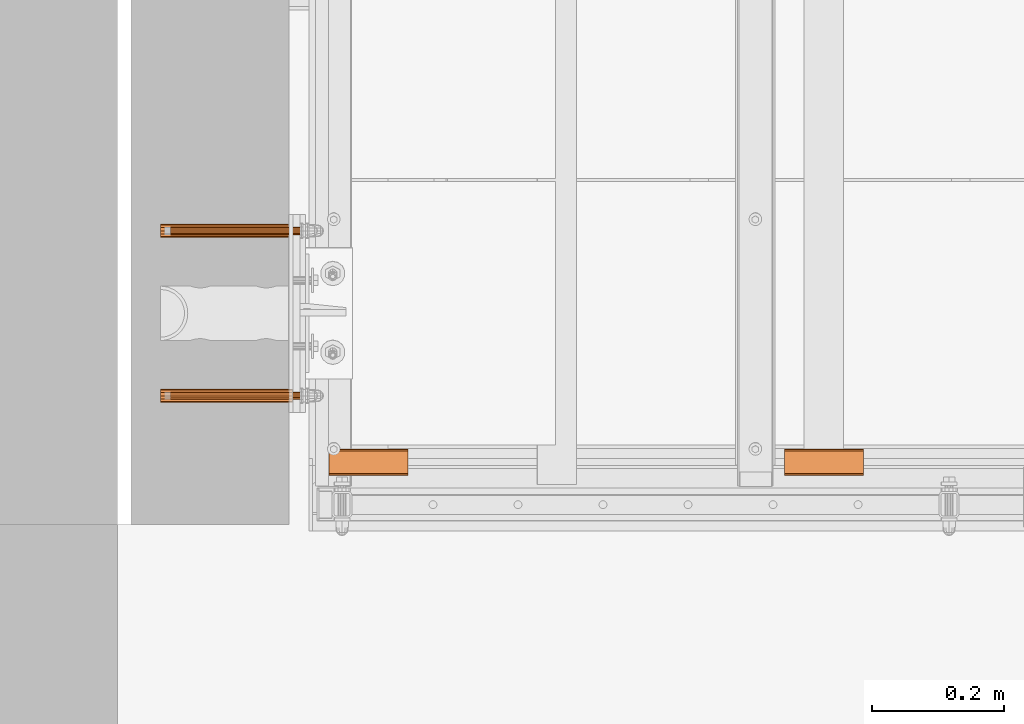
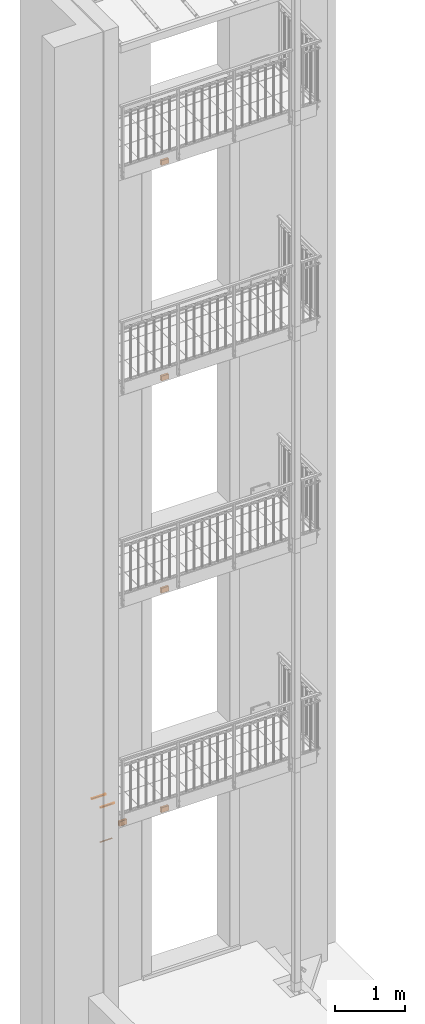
# One storey, part 81 of 162: 10 proxies.
"""IFC2X3 building model written with IfcOpenShell, lengths in millimetres."""

from ifc_helpers import new_model, entity, si_unit, converted_unit, origin_with_axes, place, context, project, spatial, faceted_brep, material, element, save


model = new_model("IFC2X3")

# Units and contexts
model_context = context("Model", 3, precision=1e-09, world=origin_with_axes())
ifc_project = project(units=[si_unit("LENGTHUNIT", "METRE", prefix="MILLI"), si_unit("AREAUNIT", "SQUARE_METRE"), si_unit("VOLUMEUNIT", "CUBIC_METRE"), converted_unit("PLANEANGLEUNIT", "DEGREE", entity("IfcPlaneAngleMeasure", 0.01745329), si_unit("PLANEANGLEUNIT", "RADIAN"), dimensions=[0, 0, 0, 0, 0, 0, 0])], contexts=[model_context])

# Site, building, storey
site_placement = place(None, origin_with_axes())
site = spatial("IfcSite", under=ifc_project, at=site_placement, Name="Hermannstra?e 1a, 60318 Frankfurt", CompositionType="ELEMENT")
building_placement = place(site_placement, origin_with_axes())
building = spatial("IfcBuilding", under=site, at=building_placement, Name="Struktur 1", CompositionType="ELEMENT")
storey_placement = place(building_placement, origin_with_axes())
storey = spatial("IfcBuildingStorey", under=building, at=storey_placement, Name="Default Storey", CompositionType="ELEMENT", Elevation=0.0)

# Proxies
ifc_material_1 = material(Name="Alu")
proxy_1_placement = place(None, origin_with_axes())
element("IfcBuildingElementProxy", 1, at=proxy_1_placement, inside=storey, material=ifc_material_1, ObjectType="-", context=model_context, shape_type="Brep", body=[
    faceted_brep([(3393.55936482, 1596.609373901, 7555.803847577), (3393.55936482, 1598.805526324, 7558.0), (3393.55936482, 1599.609373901, 7561.0), (3393.55936482, 1599.609373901, 7639.0), (3393.55936482, 1598.805526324, 7642.0), (3393.55936482, 1596.609373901, 7644.196152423), (3393.55936482, 1593.609373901, 7645.0), (3393.55936482, 1565.609373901, 7645.0), (3393.55936482, 1562.609373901, 7644.196152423), (3393.55936482, 1560.413221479, 7642.0), (3393.55936482, 1559.609373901, 7639.0), (3393.55936482, 1559.609373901, 7561.0), (3393.55936482, 1560.413221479, 7558.0), (3393.55936482, 1562.609373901, 7555.803847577), (3393.55936482, 1565.609373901, 7555.0), (3393.55936482, 1593.609373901, 7555.0), (3393.55936482, 1596.609373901, 7561.0), (3393.55936482, 1596.207450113, 7559.5), (3393.55936482, 1595.109373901, 7558.401923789), (3393.55936482, 1593.609373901, 7558.0), (3393.55936482, 1565.609373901, 7558.0), (3393.55936482, 1564.109373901, 7558.401923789), (3393.55936482, 1563.01129769, 7559.5), (3393.55936482, 1562.609373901, 7561.0), (3393.55936482, 1562.609373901, 7639.0), (3393.55936482, 1563.01129769, 7640.5), (3393.55936482, 1564.109373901, 7641.598076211), (3393.55936482, 1565.609373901, 7642.0), (3393.55936482, 1593.609373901, 7642.0), (3393.55936482, 1595.109373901, 7641.598076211), (3393.55936482, 1596.207450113, 7640.5), (3393.55936482, 1596.609373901, 7639.0), (3273.55936482, 1596.609373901, 7561.0), (3273.55936482, 1596.207450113, 7559.5), (3273.55936482, 1599.609373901, 7561.0), (3273.55936482, 1598.805526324, 7558.0), (3273.55936482, 1598.805526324, 7642.0), (3273.55936482, 1599.609373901, 7639.0), (3273.55936482, 1596.609373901, 7555.803847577), (3273.55936482, 1593.609373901, 7555.0), (3273.55936482, 1565.609373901, 7555.0), (3273.55936482, 1562.609373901, 7555.803847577), (3273.55936482, 1560.413221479, 7558.0), (3273.55936482, 1559.609373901, 7561.0), (3273.55936482, 1559.609373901, 7639.0), (3273.55936482, 1560.413221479, 7642.0), (3273.55936482, 1562.609373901, 7644.196152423), (3273.55936482, 1565.609373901, 7645.0), (3273.55936482, 1593.609373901, 7645.0), (3273.55936482, 1596.609373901, 7644.196152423), (3273.55936482, 1596.609373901, 7639.0), (3273.55936482, 1596.207450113, 7640.5), (3273.55936482, 1595.109373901, 7641.598076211), (3273.55936482, 1593.609373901, 7642.0), (3273.55936482, 1565.609373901, 7642.0), (3273.55936482, 1564.109373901, 7641.598076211), (3273.55936482, 1563.01129769, 7640.5), (3273.55936482, 1562.609373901, 7639.0), (3273.55936482, 1562.609373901, 7561.0), (3273.55936482, 1563.01129769, 7559.5), (3273.55936482, 1564.109373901, 7558.401923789), (3273.55936482, 1565.609373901, 7558.0), (3273.55936482, 1593.609373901, 7558.0), (3273.55936482, 1595.109373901, 7558.401923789)], [[[0, 1, 2, 3, 4, 5, 6, 7, 8, 9, 10, 11, 12, 13, 14, 15], [16, 17, 18, 19, 20, 21, 22, 23, 24, 25, 26, 27, 28, 29, 30, 31]], [[16, 32, 33, 17]], [[34, 2, 1, 35]], [[36, 37, 34, 35, 38, 39, 40, 41, 42, 43, 44, 45, 46, 47, 48, 49], [50, 51, 52, 53, 54, 55, 56, 57, 58, 59, 60, 61, 62, 63, 33, 32]], [[16, 31, 50, 32]], [[34, 37, 3, 2]], [[3, 37, 36, 4]], [[17, 33, 63, 18]], [[35, 1, 0, 38]], [[50, 31, 30, 51]], [[4, 36, 49, 5]], [[18, 63, 62, 19]], [[38, 0, 15, 39]], [[51, 30, 29, 52]], [[5, 49, 48, 6]], [[62, 61, 20, 19]], [[15, 14, 40, 39]], [[52, 29, 28, 53]], [[48, 47, 7, 6]], [[28, 27, 54, 53]], [[20, 61, 60, 21]], [[40, 14, 13, 41]], [[7, 47, 46, 8]], [[54, 27, 26, 55]], [[21, 60, 59, 22]], [[41, 13, 12, 42]], [[11, 43, 42, 12]], [[8, 46, 45, 9]], [[55, 26, 25, 56]], [[22, 59, 58, 23]], [[11, 10, 44, 43]], [[24, 57, 56, 25]], [[24, 23, 58, 57]], [[9, 45, 44, 10]]]),
])
proxy_2_placement = place(None, origin_with_axes())
element("IfcBuildingElementProxy", 2, at=proxy_2_placement, inside=storey, material=ifc_material_1, ObjectType="-", context=model_context, shape_type="Brep", body=[
    faceted_brep([(3393.55936482, 1596.609373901, 11255.802847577), (3393.55936482, 1598.805526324, 11257.999), (3393.55936482, 1599.609373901, 11260.999), (3393.55936482, 1599.609373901, 11338.999), (3393.55936482, 1598.805526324, 11341.999), (3393.55936482, 1596.609373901, 11344.195152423), (3393.55936482, 1593.609373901, 11344.999), (3393.55936482, 1565.609373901, 11344.999), (3393.55936482, 1562.609373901, 11344.195152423), (3393.55936482, 1560.413221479, 11341.999), (3393.55936482, 1559.609373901, 11338.999), (3393.55936482, 1559.609373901, 11260.999), (3393.55936482, 1560.413221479, 11257.999), (3393.55936482, 1562.609373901, 11255.802847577), (3393.55936482, 1565.609373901, 11254.999), (3393.55936482, 1593.609373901, 11254.999), (3393.55936482, 1596.609373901, 11260.999), (3393.55936482, 1596.207450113, 11259.499), (3393.55936482, 1595.109373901, 11258.400923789), (3393.55936482, 1593.609373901, 11257.999), (3393.55936482, 1565.609373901, 11257.999), (3393.55936482, 1564.109373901, 11258.400923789), (3393.55936482, 1563.01129769, 11259.499), (3393.55936482, 1562.609373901, 11260.999), (3393.55936482, 1562.609373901, 11338.999), (3393.55936482, 1563.01129769, 11340.499), (3393.55936482, 1564.109373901, 11341.597076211), (3393.55936482, 1565.609373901, 11341.999), (3393.55936482, 1593.609373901, 11341.999), (3393.55936482, 1595.109373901, 11341.597076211), (3393.55936482, 1596.207450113, 11340.499), (3393.55936482, 1596.609373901, 11338.999), (3273.55936482, 1596.609373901, 11260.999), (3273.55936482, 1596.207450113, 11259.499), (3273.55936482, 1599.609373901, 11260.999), (3273.55936482, 1598.805526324, 11257.999), (3273.55936482, 1598.805526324, 11341.999), (3273.55936482, 1599.609373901, 11338.999), (3273.55936482, 1596.609373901, 11255.802847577), (3273.55936482, 1593.609373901, 11254.999), (3273.55936482, 1565.609373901, 11254.999), (3273.55936482, 1562.609373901, 11255.802847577), (3273.55936482, 1560.413221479, 11257.999), (3273.55936482, 1559.609373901, 11260.999), (3273.55936482, 1559.609373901, 11338.999), (3273.55936482, 1560.413221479, 11341.999), (3273.55936482, 1562.609373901, 11344.195152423), (3273.55936482, 1565.609373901, 11344.999), (3273.55936482, 1593.609373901, 11344.999), (3273.55936482, 1596.609373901, 11344.195152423), (3273.55936482, 1596.609373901, 11338.999), (3273.55936482, 1596.207450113, 11340.499), (3273.55936482, 1595.109373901, 11341.597076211), (3273.55936482, 1593.609373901, 11341.999), (3273.55936482, 1565.609373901, 11341.999), (3273.55936482, 1564.109373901, 11341.597076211), (3273.55936482, 1563.01129769, 11340.499), (3273.55936482, 1562.609373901, 11338.999), (3273.55936482, 1562.609373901, 11260.999), (3273.55936482, 1563.01129769, 11259.499), (3273.55936482, 1564.109373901, 11258.400923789), (3273.55936482, 1565.609373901, 11257.999), (3273.55936482, 1593.609373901, 11257.999), (3273.55936482, 1595.109373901, 11258.400923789)], [[[0, 1, 2, 3, 4, 5, 6, 7, 8, 9, 10, 11, 12, 13, 14, 15], [16, 17, 18, 19, 20, 21, 22, 23, 24, 25, 26, 27, 28, 29, 30, 31]], [[16, 32, 33, 17]], [[34, 2, 1, 35]], [[36, 37, 34, 35, 38, 39, 40, 41, 42, 43, 44, 45, 46, 47, 48, 49], [50, 51, 52, 53, 54, 55, 56, 57, 58, 59, 60, 61, 62, 63, 33, 32]], [[16, 31, 50, 32]], [[34, 37, 3, 2]], [[3, 37, 36, 4]], [[17, 33, 63, 18]], [[35, 1, 0, 38]], [[50, 31, 30, 51]], [[4, 36, 49, 5]], [[18, 63, 62, 19]], [[38, 0, 15, 39]], [[51, 30, 29, 52]], [[5, 49, 48, 6]], [[62, 61, 20, 19]], [[15, 14, 40, 39]], [[52, 29, 28, 53]], [[48, 47, 7, 6]], [[28, 27, 54, 53]], [[20, 61, 60, 21]], [[40, 14, 13, 41]], [[7, 47, 46, 8]], [[54, 27, 26, 55]], [[21, 60, 59, 22]], [[41, 13, 12, 42]], [[11, 43, 42, 12]], [[8, 46, 45, 9]], [[55, 26, 25, 56]], [[22, 59, 58, 23]], [[11, 10, 44, 43]], [[24, 57, 56, 25]], [[24, 23, 58, 57]], [[9, 45, 44, 10]]]),
])
proxy_3_placement = place(None, origin_with_axes())
element("IfcBuildingElementProxy", 3, at=proxy_3_placement, inside=storey, material=ifc_material_1, ObjectType="-", context=model_context, shape_type="Brep", body=[
    faceted_brep([(3393.55936482, 1596.609373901, 15012.802847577), (3393.55936482, 1598.805526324, 15014.999), (3393.55936482, 1599.609373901, 15017.999), (3393.55936482, 1599.609373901, 15095.999), (3393.55936482, 1598.805526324, 15098.999), (3393.55936482, 1596.609373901, 15101.195152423), (3393.55936482, 1593.609373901, 15101.999), (3393.55936482, 1565.609373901, 15101.999), (3393.55936482, 1562.609373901, 15101.195152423), (3393.55936482, 1560.413221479, 15098.999), (3393.55936482, 1559.609373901, 15095.999), (3393.55936482, 1559.609373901, 15017.999), (3393.55936482, 1560.413221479, 15014.999), (3393.55936482, 1562.609373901, 15012.802847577), (3393.55936482, 1565.609373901, 15011.999), (3393.55936482, 1593.609373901, 15011.999), (3393.55936482, 1596.609373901, 15017.999), (3393.55936482, 1596.207450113, 15016.499), (3393.55936482, 1595.109373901, 15015.400923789), (3393.55936482, 1593.609373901, 15014.999), (3393.55936482, 1565.609373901, 15014.999), (3393.55936482, 1564.109373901, 15015.400923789), (3393.55936482, 1563.01129769, 15016.499), (3393.55936482, 1562.609373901, 15017.999), (3393.55936482, 1562.609373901, 15095.999), (3393.55936482, 1563.01129769, 15097.499), (3393.55936482, 1564.109373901, 15098.597076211), (3393.55936482, 1565.609373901, 15098.999), (3393.55936482, 1593.609373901, 15098.999), (3393.55936482, 1595.109373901, 15098.597076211), (3393.55936482, 1596.207450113, 15097.499), (3393.55936482, 1596.609373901, 15095.999), (3273.55936482, 1596.609373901, 15017.999), (3273.55936482, 1596.207450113, 15016.499), (3273.55936482, 1599.609373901, 15017.999), (3273.55936482, 1598.805526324, 15014.999), (3273.55936482, 1598.805526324, 15098.999), (3273.55936482, 1599.609373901, 15095.999), (3273.55936482, 1596.609373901, 15012.802847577), (3273.55936482, 1593.609373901, 15011.999), (3273.55936482, 1565.609373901, 15011.999), (3273.55936482, 1562.609373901, 15012.802847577), (3273.55936482, 1560.413221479, 15014.999), (3273.55936482, 1559.609373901, 15017.999), (3273.55936482, 1559.609373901, 15095.999), (3273.55936482, 1560.413221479, 15098.999), (3273.55936482, 1562.609373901, 15101.195152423), (3273.55936482, 1565.609373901, 15101.999), (3273.55936482, 1593.609373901, 15101.999), (3273.55936482, 1596.609373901, 15101.195152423), (3273.55936482, 1596.609373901, 15095.999), (3273.55936482, 1596.207450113, 15097.499), (3273.55936482, 1595.109373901, 15098.597076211), (3273.55936482, 1593.609373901, 15098.999), (3273.55936482, 1565.609373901, 15098.999), (3273.55936482, 1564.109373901, 15098.597076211), (3273.55936482, 1563.01129769, 15097.499), (3273.55936482, 1562.609373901, 15095.999), (3273.55936482, 1562.609373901, 15017.999), (3273.55936482, 1563.01129769, 15016.499), (3273.55936482, 1564.109373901, 15015.400923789), (3273.55936482, 1565.609373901, 15014.999), (3273.55936482, 1593.609373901, 15014.999), (3273.55936482, 1595.109373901, 15015.400923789)], [[[0, 1, 2, 3, 4, 5, 6, 7, 8, 9, 10, 11, 12, 13, 14, 15], [16, 17, 18, 19, 20, 21, 22, 23, 24, 25, 26, 27, 28, 29, 30, 31]], [[16, 32, 33, 17]], [[34, 2, 1, 35]], [[36, 37, 34, 35, 38, 39, 40, 41, 42, 43, 44, 45, 46, 47, 48, 49], [50, 51, 52, 53, 54, 55, 56, 57, 58, 59, 60, 61, 62, 63, 33, 32]], [[16, 31, 50, 32]], [[34, 37, 3, 2]], [[3, 37, 36, 4]], [[17, 33, 63, 18]], [[35, 1, 0, 38]], [[50, 31, 30, 51]], [[4, 36, 49, 5]], [[18, 63, 62, 19]], [[38, 0, 15, 39]], [[51, 30, 29, 52]], [[5, 49, 48, 6]], [[62, 61, 20, 19]], [[15, 14, 40, 39]], [[52, 29, 28, 53]], [[48, 47, 7, 6]], [[28, 27, 54, 53]], [[20, 61, 60, 21]], [[40, 14, 13, 41]], [[7, 47, 46, 8]], [[54, 27, 26, 55]], [[21, 60, 59, 22]], [[41, 13, 12, 42]], [[11, 43, 42, 12]], [[8, 46, 45, 9]], [[55, 26, 25, 56]], [[22, 59, 58, 23]], [[11, 10, 44, 43]], [[24, 57, 56, 25]], [[24, 23, 58, 57]], [[9, 45, 44, 10]]]),
])
ifc_material_2 = material(Name="Kunststoff")
proxy_4_placement = place(None, origin_with_axes())
element("IfcBuildingElementProxy", 4, at=proxy_4_placement, inside=storey, material=ifc_material_2, ObjectType="-", context=model_context, shape_type="Brep", body=[
    faceted_brep([(2328.310071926, 1675.610081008, 3471.339745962), (2328.310071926, 1671.94982697, 3475.0), (2328.310071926, 1670.610081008, 3480.0), (2328.310071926, 1671.94982697, 3485.0), (2328.310071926, 1675.610081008, 3488.660254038), (2328.310071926, 1680.610081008, 3490.0), (2328.310071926, 1685.610081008, 3488.660254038), (2328.310071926, 1689.270335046, 3485.0), (2328.310071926, 1690.610081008, 3480.0), (2328.310071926, 1689.270335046, 3475.0), (2328.310071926, 1685.610081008, 3471.339745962), (2328.310071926, 1680.610081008, 3470.0), (2528.310071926, 1680.610081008, 3490.0), (2528.310071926, 1675.610081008, 3488.660254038), (2528.310071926, 1685.610081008, 3488.660254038), (2528.310071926, 1689.270335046, 3485.0), (2528.310071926, 1689.270335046, 3475.0), (2528.310071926, 1685.610081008, 3471.339745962), (2528.310071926, 1690.610081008, 3480.0), (2528.310071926, 1680.610081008, 3470.0), (2528.310071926, 1671.94982697, 3485.0), (2528.310071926, 1670.610081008, 3480.0), (2528.310071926, 1671.94982697, 3475.0), (2528.310071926, 1675.610081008, 3471.339745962), (2528.310071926, 1684.860081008, 3472.638784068), (2330.310071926, 1684.860081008, 3472.638784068), (2330.310071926, 1680.610081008, 3471.5), (2528.310071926, 1680.610081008, 3471.5), (2528.310071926, 1687.97129694, 3475.75), (2330.310071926, 1687.97129694, 3475.75), (2330.310071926, 1680.610081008, 3488.5), (2528.310071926, 1680.610081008, 3488.5), (2528.310071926, 1676.360081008, 3487.361215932), (2330.310071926, 1676.360081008, 3487.361215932), (2330.310071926, 1684.860081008, 3487.361215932), (2528.310071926, 1684.860081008, 3487.361215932), (2330.310071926, 1673.248865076, 3484.25), (2330.310071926, 1672.110081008, 3480.0), (2330.310071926, 1673.248865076, 3475.75), (2330.310071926, 1676.360081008, 3472.638784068), (2330.310071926, 1689.110081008, 3480.0), (2330.310071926, 1687.97129694, 3484.25), (2528.310071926, 1676.360081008, 3472.638784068), (2528.310071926, 1687.97129694, 3484.25), (2528.310071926, 1689.110081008, 3480.0), (2528.310071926, 1673.248865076, 3484.25), (2528.310071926, 1673.248865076, 3475.75), (2528.310071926, 1672.110081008, 3480.0)], [[[0, 1, 2, 3, 4, 5, 6, 7, 8, 9, 10, 11]], [[12, 5, 4, 13]], [[14, 6, 5, 12]], [[15, 7, 6, 14]], [[9, 16, 17, 10]], [[18, 8, 7, 15]], [[10, 17, 19, 11]], [[16, 18, 15, 14, 12, 13, 20, 21, 22, 23, 19, 17]], [[8, 18, 16, 9]], [[13, 4, 3, 20]], [[11, 19, 23, 0]], [[24, 25, 26, 27]], [[25, 24, 28, 29]], [[30, 31, 32, 33]], [[31, 30, 34, 35]], [[33, 36, 37, 38, 39, 26, 25, 29, 40, 41, 34, 30]], [[20, 3, 2, 21]], [[0, 23, 22, 1]], [[27, 26, 39, 42]], [[41, 43, 35, 34]], [[40, 44, 43, 41]], [[29, 28, 44, 40]], [[21, 2, 1, 22]], [[33, 32, 45, 36]], [[42, 39, 38, 46]], [[36, 45, 47, 37]], [[46, 38, 37, 47]]]),
])
proxy_5_placement = place(None, origin_with_axes())
element("IfcBuildingElementProxy", 5, at=proxy_5_placement, inside=storey, material=ifc_material_2, ObjectType="-", context=model_context, shape_type="Brep", body=[
    faceted_brep([(2328.310071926, 1921.94982697, 4085.0), (2328.310071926, 1925.610081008, 4088.660254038), (2328.310071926, 1930.610081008, 4090.0), (2328.310071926, 1935.610081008, 4088.660254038), (2328.310071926, 1939.270335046, 4085.0), (2328.310071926, 1940.610081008, 4080.0), (2328.310071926, 1939.270335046, 4075.0), (2328.310071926, 1935.610081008, 4071.339745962), (2328.310071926, 1930.610081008, 4070.0), (2328.310071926, 1925.610081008, 4071.339745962), (2328.310071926, 1921.94982697, 4075.0), (2328.310071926, 1920.610081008, 4080.0), (2528.310071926, 1930.610081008, 4070.0), (2528.310071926, 1925.610081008, 4071.339745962), (2528.310071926, 1935.610081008, 4071.339745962), (2528.310071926, 1939.270335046, 4075.0), (2528.310071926, 1939.270335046, 4085.0), (2528.310071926, 1935.610081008, 4088.660254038), (2528.310071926, 1940.610081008, 4080.0), (2528.310071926, 1930.610081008, 4090.0), (2528.310071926, 1925.610081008, 4088.660254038), (2528.310071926, 1921.94982697, 4085.0), (2528.310071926, 1920.610081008, 4080.0), (2528.310071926, 1921.94982697, 4075.0), (2528.310071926, 1934.860081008, 4087.361215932), (2528.310071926, 1937.97129694, 4084.25), (2528.310071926, 1939.110081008, 4080.0), (2528.310071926, 1937.97129694, 4075.75), (2528.310071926, 1934.860081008, 4072.638784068), (2528.310071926, 1930.610081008, 4071.5), (2528.310071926, 1926.360081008, 4072.638784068), (2528.310071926, 1923.248865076, 4075.75), (2528.310071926, 1922.110081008, 4080.0), (2528.310071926, 1923.248865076, 4084.25), (2528.310071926, 1926.360081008, 4087.361215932), (2528.310071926, 1930.610081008, 4088.5), (2330.310071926, 1934.860081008, 4087.361215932), (2330.310071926, 1930.610081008, 4088.5), (2330.310071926, 1937.97129694, 4084.25), (2330.310071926, 1930.610081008, 4071.5), (2330.310071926, 1926.360081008, 4072.638784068), (2330.310071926, 1934.860081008, 4072.638784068), (2330.310071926, 1923.248865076, 4075.75), (2330.310071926, 1937.97129694, 4075.75), (2330.310071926, 1939.110081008, 4080.0), (2330.310071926, 1926.360081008, 4087.361215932), (2330.310071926, 1923.248865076, 4084.25), (2330.310071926, 1922.110081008, 4080.0)], [[[0, 1, 2, 3, 4, 5, 6, 7, 8, 9, 10, 11]], [[8, 12, 13, 9]], [[7, 14, 12, 8]], [[6, 15, 14, 7]], [[16, 4, 3, 17]], [[5, 18, 15, 6]], [[17, 3, 2, 19]], [[18, 16, 17, 19, 20, 21, 22, 23, 13, 12, 14, 15], [24, 25, 26, 27, 28, 29, 30, 31, 32, 33, 34, 35]], [[18, 5, 4, 16]], [[9, 13, 23, 10]], [[19, 2, 1, 20]], [[36, 24, 35, 37]], [[24, 36, 38, 25]], [[29, 39, 40, 30]], [[39, 29, 28, 41]], [[42, 40, 39, 41, 43, 44, 38, 36, 37, 45, 46, 47]], [[10, 23, 22, 11]], [[20, 1, 0, 21]], [[37, 35, 34, 45]], [[27, 43, 41, 28]], [[26, 44, 43, 27]], [[25, 38, 44, 26]], [[11, 22, 21, 0]], [[30, 40, 42, 31]], [[45, 34, 33, 46]], [[31, 42, 47, 32]], [[46, 33, 32, 47]]]),
])
ifc_material_3 = material(Name="A4")
proxy_6_placement = place(None, origin_with_axes())
element("IfcBuildingElementProxy", 6, at=proxy_6_placement, inside=storey, material=ifc_material_3, ObjectType="-", context=model_context, shape_type="Brep", body=[
    faceted_brep([(2343.310071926, 1930.610081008, 4074.0), (2563.310071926, 1930.610081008, 4074.0), (2563.310071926, 1927.610081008, 4074.803847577), (2343.310071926, 1927.610081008, 4074.803847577), (2343.310071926, 1933.610081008, 4074.803847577), (2563.310071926, 1933.610081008, 4074.803847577), (2563.310071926, 1935.806233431, 4083.0), (2563.310071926, 1933.610081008, 4085.196152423), (2563.310071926, 1930.610081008, 4086.0), (2563.310071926, 1927.610081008, 4085.196152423), (2563.310071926, 1925.413928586, 4083.0), (2563.310071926, 1924.610081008, 4080.0), (2563.310071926, 1925.413928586, 4077.0), (2563.310071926, 1935.806233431, 4077.0), (2563.310071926, 1936.610081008, 4080.0), (2343.310071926, 1925.413928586, 4083.0), (2343.310071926, 1927.610081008, 4085.196152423), (2343.310071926, 1930.610081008, 4086.0), (2343.310071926, 1933.610081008, 4085.196152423), (2343.310071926, 1935.806233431, 4083.0), (2343.310071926, 1936.610081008, 4080.0), (2343.310071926, 1935.806233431, 4077.0), (2343.310071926, 1925.413928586, 4077.0), (2343.310071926, 1924.610081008, 4080.0)], [[[0, 1, 2, 3]], [[1, 0, 4, 5]], [[6, 7, 8, 9, 10, 11, 12, 2, 1, 5, 13, 14]], [[15, 16, 17, 18, 19, 20, 21, 4, 0, 3, 22, 23]], [[3, 2, 12, 22]], [[5, 4, 21, 13]], [[11, 23, 22, 12]], [[10, 15, 23, 11]], [[13, 21, 20, 14]], [[16, 9, 8, 17]], [[15, 10, 9, 16]], [[17, 8, 7, 18]], [[14, 20, 19, 6]], [[18, 7, 6, 19]]]),
])
proxy_7_placement = place(None, origin_with_axes())
element("IfcBuildingElementProxy", 7, at=proxy_7_placement, inside=storey, material=ifc_material_2, ObjectType="-", context=model_context, shape_type="Brep", body=[
    faceted_brep([(2328.310071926, 1671.94982697, 4085.0), (2328.310071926, 1675.610081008, 4088.660254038), (2328.310071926, 1680.610081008, 4090.0), (2328.310071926, 1685.610081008, 4088.660254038), (2328.310071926, 1689.270335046, 4085.0), (2328.310071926, 1690.610081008, 4080.0), (2328.310071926, 1689.270335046, 4075.0), (2328.310071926, 1685.610081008, 4071.339745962), (2328.310071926, 1680.610081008, 4070.0), (2328.310071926, 1675.610081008, 4071.339745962), (2328.310071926, 1671.94982697, 4075.0), (2328.310071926, 1670.610081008, 4080.0), (2528.310071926, 1680.610081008, 4070.0), (2528.310071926, 1675.610081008, 4071.339745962), (2528.310071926, 1685.610081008, 4071.339745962), (2528.310071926, 1689.270335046, 4075.0), (2528.310071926, 1689.270335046, 4085.0), (2528.310071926, 1685.610081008, 4088.660254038), (2528.310071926, 1690.610081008, 4080.0), (2528.310071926, 1680.610081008, 4090.0), (2528.310071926, 1675.610081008, 4088.660254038), (2528.310071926, 1671.94982697, 4085.0), (2528.310071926, 1670.610081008, 4080.0), (2528.310071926, 1671.94982697, 4075.0), (2528.310071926, 1684.860081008, 4087.361215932), (2528.310071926, 1687.97129694, 4084.25), (2528.310071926, 1689.110081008, 4080.0), (2528.310071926, 1687.97129694, 4075.75), (2528.310071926, 1684.860081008, 4072.638784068), (2528.310071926, 1680.610081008, 4071.5), (2528.310071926, 1676.360081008, 4072.638784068), (2528.310071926, 1673.248865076, 4075.75), (2528.310071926, 1672.110081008, 4080.0), (2528.310071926, 1673.248865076, 4084.25), (2528.310071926, 1676.360081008, 4087.361215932), (2528.310071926, 1680.610081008, 4088.5), (2330.310071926, 1684.860081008, 4087.361215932), (2330.310071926, 1680.610081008, 4088.5), (2330.310071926, 1687.97129694, 4084.25), (2330.310071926, 1680.610081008, 4071.5), (2330.310071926, 1676.360081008, 4072.638784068), (2330.310071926, 1684.860081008, 4072.638784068), (2330.310071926, 1673.248865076, 4075.75), (2330.310071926, 1687.97129694, 4075.75), (2330.310071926, 1689.110081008, 4080.0), (2330.310071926, 1676.360081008, 4087.361215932), (2330.310071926, 1673.248865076, 4084.25), (2330.310071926, 1672.110081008, 4080.0)], [[[0, 1, 2, 3, 4, 5, 6, 7, 8, 9, 10, 11]], [[8, 12, 13, 9]], [[7, 14, 12, 8]], [[6, 15, 14, 7]], [[16, 4, 3, 17]], [[5, 18, 15, 6]], [[17, 3, 2, 19]], [[18, 16, 17, 19, 20, 21, 22, 23, 13, 12, 14, 15], [24, 25, 26, 27, 28, 29, 30, 31, 32, 33, 34, 35]], [[18, 5, 4, 16]], [[9, 13, 23, 10]], [[19, 2, 1, 20]], [[36, 24, 35, 37]], [[24, 36, 38, 25]], [[29, 39, 40, 30]], [[39, 29, 28, 41]], [[42, 40, 39, 41, 43, 44, 38, 36, 37, 45, 46, 47]], [[10, 23, 22, 11]], [[20, 1, 0, 21]], [[37, 35, 34, 45]], [[27, 43, 41, 28]], [[26, 44, 43, 27]], [[25, 38, 44, 26]], [[11, 22, 21, 0]], [[30, 40, 42, 31]], [[45, 34, 33, 46]], [[31, 42, 47, 32]], [[46, 33, 32, 47]]]),
])
proxy_8_placement = place(None, origin_with_axes())
element("IfcBuildingElementProxy", 8, at=proxy_8_placement, inside=storey, material=ifc_material_3, ObjectType="-", context=model_context, shape_type="Brep", body=[
    faceted_brep([(2343.310071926, 1680.610081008, 4074.0), (2563.310071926, 1680.610081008, 4074.0), (2563.310071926, 1677.610081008, 4074.803847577), (2343.310071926, 1677.610081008, 4074.803847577), (2343.310071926, 1683.610081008, 4074.803847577), (2563.310071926, 1683.610081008, 4074.803847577), (2563.310071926, 1685.806233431, 4083.0), (2563.310071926, 1683.610081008, 4085.196152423), (2563.310071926, 1680.610081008, 4086.0), (2563.310071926, 1677.610081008, 4085.196152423), (2563.310071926, 1675.413928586, 4083.0), (2563.310071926, 1674.610081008, 4080.0), (2563.310071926, 1675.413928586, 4077.0), (2563.310071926, 1685.806233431, 4077.0), (2563.310071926, 1686.610081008, 4080.0), (2343.310071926, 1675.413928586, 4083.0), (2343.310071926, 1677.610081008, 4085.196152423), (2343.310071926, 1680.610081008, 4086.0), (2343.310071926, 1683.610081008, 4085.196152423), (2343.310071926, 1685.806233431, 4083.0), (2343.310071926, 1686.610081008, 4080.0), (2343.310071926, 1685.806233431, 4077.0), (2343.310071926, 1675.413928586, 4077.0), (2343.310071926, 1674.610081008, 4080.0)], [[[0, 1, 2, 3]], [[1, 0, 4, 5]], [[6, 7, 8, 9, 10, 11, 12, 2, 1, 5, 13, 14]], [[15, 16, 17, 18, 19, 20, 21, 4, 0, 3, 22, 23]], [[3, 2, 12, 22]], [[5, 4, 21, 13]], [[11, 23, 22, 12]], [[10, 15, 23, 11]], [[13, 21, 20, 14]], [[16, 9, 8, 17]], [[15, 10, 9, 16]], [[17, 8, 7, 18]], [[14, 20, 19, 6]], [[18, 7, 6, 19]]]),
])
proxy_9_placement = place(None, origin_with_axes())
element("IfcBuildingElementProxy", 9, at=proxy_9_placement, inside=storey, material=ifc_material_1, ObjectType="-", context=model_context, shape_type="Brep", body=[
    faceted_brep([(2703.30936482, 1596.609373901, 3730.803847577), (2703.30936482, 1598.805526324, 3733.0), (2703.30936482, 1599.609373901, 3736.0), (2703.30936482, 1599.609373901, 3814.0), (2703.30936482, 1598.805526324, 3817.0), (2703.30936482, 1596.609373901, 3819.196152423), (2703.30936482, 1593.609373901, 3820.0), (2703.30936482, 1565.609373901, 3820.0), (2703.30936482, 1562.609373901, 3819.196152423), (2703.30936482, 1560.413221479, 3817.0), (2703.30936482, 1559.609373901, 3814.0), (2703.30936482, 1559.609373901, 3736.0), (2703.30936482, 1560.413221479, 3733.0), (2703.30936482, 1562.609373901, 3730.803847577), (2703.30936482, 1565.609373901, 3730.0), (2703.30936482, 1593.609373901, 3730.0), (2703.30936482, 1596.609373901, 3736.0), (2703.30936482, 1596.207450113, 3734.5), (2703.30936482, 1595.109373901, 3733.401923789), (2703.30936482, 1593.609373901, 3733.0), (2703.30936482, 1565.609373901, 3733.0), (2703.30936482, 1564.109373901, 3733.401923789), (2703.30936482, 1563.01129769, 3734.5), (2703.30936482, 1562.609373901, 3736.0), (2703.30936482, 1562.609373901, 3814.0), (2703.30936482, 1563.01129769, 3815.5), (2703.30936482, 1564.109373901, 3816.598076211), (2703.30936482, 1565.609373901, 3817.0), (2703.30936482, 1593.609373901, 3817.0), (2703.30936482, 1595.109373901, 3816.598076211), (2703.30936482, 1596.207450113, 3815.5), (2703.30936482, 1596.609373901, 3814.0), (2583.30936482, 1596.609373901, 3736.0), (2583.30936482, 1596.207450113, 3734.5), (2583.30936482, 1599.609373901, 3736.0), (2583.30936482, 1598.805526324, 3733.0), (2583.30936482, 1598.805526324, 3817.0), (2583.30936482, 1599.609373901, 3814.0), (2583.30936482, 1596.609373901, 3730.803847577), (2583.30936482, 1593.609373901, 3730.0), (2583.30936482, 1565.609373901, 3730.0), (2583.30936482, 1562.609373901, 3730.803847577), (2583.30936482, 1560.413221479, 3733.0), (2583.30936482, 1559.609373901, 3736.0), (2583.30936482, 1559.609373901, 3814.0), (2583.30936482, 1560.413221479, 3817.0), (2583.30936482, 1562.609373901, 3819.196152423), (2583.30936482, 1565.609373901, 3820.0), (2583.30936482, 1593.609373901, 3820.0), (2583.30936482, 1596.609373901, 3819.196152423), (2583.30936482, 1596.609373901, 3814.0), (2583.30936482, 1596.207450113, 3815.5), (2583.30936482, 1595.109373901, 3816.598076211), (2583.30936482, 1593.609373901, 3817.0), (2583.30936482, 1565.609373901, 3817.0), (2583.30936482, 1564.109373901, 3816.598076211), (2583.30936482, 1563.01129769, 3815.5), (2583.30936482, 1562.609373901, 3814.0), (2583.30936482, 1562.609373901, 3736.0), (2583.30936482, 1563.01129769, 3734.5), (2583.30936482, 1564.109373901, 3733.401923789), (2583.30936482, 1565.609373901, 3733.0), (2583.30936482, 1593.609373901, 3733.0), (2583.30936482, 1595.109373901, 3733.401923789)], [[[0, 1, 2, 3, 4, 5, 6, 7, 8, 9, 10, 11, 12, 13, 14, 15], [16, 17, 18, 19, 20, 21, 22, 23, 24, 25, 26, 27, 28, 29, 30, 31]], [[16, 32, 33, 17]], [[34, 2, 1, 35]], [[36, 37, 34, 35, 38, 39, 40, 41, 42, 43, 44, 45, 46, 47, 48, 49], [50, 51, 52, 53, 54, 55, 56, 57, 58, 59, 60, 61, 62, 63, 33, 32]], [[16, 31, 50, 32]], [[34, 37, 3, 2]], [[3, 37, 36, 4]], [[17, 33, 63, 18]], [[35, 1, 0, 38]], [[50, 31, 30, 51]], [[4, 36, 49, 5]], [[18, 63, 62, 19]], [[38, 0, 15, 39]], [[51, 30, 29, 52]], [[5, 49, 48, 6]], [[62, 61, 20, 19]], [[15, 14, 40, 39]], [[52, 29, 28, 53]], [[48, 47, 7, 6]], [[28, 27, 54, 53]], [[20, 61, 60, 21]], [[40, 14, 13, 41]], [[7, 47, 46, 8]], [[54, 27, 26, 55]], [[21, 60, 59, 22]], [[41, 13, 12, 42]], [[11, 43, 42, 12]], [[8, 46, 45, 9]], [[55, 26, 25, 56]], [[22, 59, 58, 23]], [[11, 10, 44, 43]], [[24, 57, 56, 25]], [[24, 23, 58, 57]], [[9, 45, 44, 10]]]),
])
proxy_10_placement = place(None, origin_with_axes())
element("IfcBuildingElementProxy", 10, at=proxy_10_placement, inside=storey, material=ifc_material_1, ObjectType="-", context=model_context, shape_type="Brep", body=[
    faceted_brep([(3393.55936482, 1596.609373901, 3730.803847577), (3393.55936482, 1598.805526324, 3733.0), (3393.55936482, 1599.609373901, 3736.0), (3393.55936482, 1599.609373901, 3814.0), (3393.55936482, 1598.805526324, 3817.0), (3393.55936482, 1596.609373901, 3819.196152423), (3393.55936482, 1593.609373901, 3820.0), (3393.55936482, 1565.609373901, 3820.0), (3393.55936482, 1562.609373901, 3819.196152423), (3393.55936482, 1560.413221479, 3817.0), (3393.55936482, 1559.609373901, 3814.0), (3393.55936482, 1559.609373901, 3736.0), (3393.55936482, 1560.413221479, 3733.0), (3393.55936482, 1562.609373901, 3730.803847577), (3393.55936482, 1565.609373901, 3730.0), (3393.55936482, 1593.609373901, 3730.0), (3393.55936482, 1596.609373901, 3736.0), (3393.55936482, 1596.207450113, 3734.5), (3393.55936482, 1595.109373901, 3733.401923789), (3393.55936482, 1593.609373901, 3733.0), (3393.55936482, 1565.609373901, 3733.0), (3393.55936482, 1564.109373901, 3733.401923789), (3393.55936482, 1563.01129769, 3734.5), (3393.55936482, 1562.609373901, 3736.0), (3393.55936482, 1562.609373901, 3814.0), (3393.55936482, 1563.01129769, 3815.5), (3393.55936482, 1564.109373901, 3816.598076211), (3393.55936482, 1565.609373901, 3817.0), (3393.55936482, 1593.609373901, 3817.0), (3393.55936482, 1595.109373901, 3816.598076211), (3393.55936482, 1596.207450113, 3815.5), (3393.55936482, 1596.609373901, 3814.0), (3273.55936482, 1596.609373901, 3736.0), (3273.55936482, 1596.207450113, 3734.5), (3273.55936482, 1599.609373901, 3736.0), (3273.55936482, 1598.805526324, 3733.0), (3273.55936482, 1598.805526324, 3817.0), (3273.55936482, 1599.609373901, 3814.0), (3273.55936482, 1596.609373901, 3730.803847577), (3273.55936482, 1593.609373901, 3730.0), (3273.55936482, 1565.609373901, 3730.0), (3273.55936482, 1562.609373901, 3730.803847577), (3273.55936482, 1560.413221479, 3733.0), (3273.55936482, 1559.609373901, 3736.0), (3273.55936482, 1559.609373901, 3814.0), (3273.55936482, 1560.413221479, 3817.0), (3273.55936482, 1562.609373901, 3819.196152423), (3273.55936482, 1565.609373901, 3820.0), (3273.55936482, 1593.609373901, 3820.0), (3273.55936482, 1596.609373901, 3819.196152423), (3273.55936482, 1596.609373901, 3814.0), (3273.55936482, 1596.207450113, 3815.5), (3273.55936482, 1595.109373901, 3816.598076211), (3273.55936482, 1593.609373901, 3817.0), (3273.55936482, 1565.609373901, 3817.0), (3273.55936482, 1564.109373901, 3816.598076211), (3273.55936482, 1563.01129769, 3815.5), (3273.55936482, 1562.609373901, 3814.0), (3273.55936482, 1562.609373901, 3736.0), (3273.55936482, 1563.01129769, 3734.5), (3273.55936482, 1564.109373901, 3733.401923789), (3273.55936482, 1565.609373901, 3733.0), (3273.55936482, 1593.609373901, 3733.0), (3273.55936482, 1595.109373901, 3733.401923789)], [[[0, 1, 2, 3, 4, 5, 6, 7, 8, 9, 10, 11, 12, 13, 14, 15], [16, 17, 18, 19, 20, 21, 22, 23, 24, 25, 26, 27, 28, 29, 30, 31]], [[16, 32, 33, 17]], [[34, 2, 1, 35]], [[36, 37, 34, 35, 38, 39, 40, 41, 42, 43, 44, 45, 46, 47, 48, 49], [50, 51, 52, 53, 54, 55, 56, 57, 58, 59, 60, 61, 62, 63, 33, 32]], [[16, 31, 50, 32]], [[34, 37, 3, 2]], [[3, 37, 36, 4]], [[17, 33, 63, 18]], [[35, 1, 0, 38]], [[50, 31, 30, 51]], [[4, 36, 49, 5]], [[18, 63, 62, 19]], [[38, 0, 15, 39]], [[51, 30, 29, 52]], [[5, 49, 48, 6]], [[62, 61, 20, 19]], [[15, 14, 40, 39]], [[52, 29, 28, 53]], [[48, 47, 7, 6]], [[28, 27, 54, 53]], [[20, 61, 60, 21]], [[40, 14, 13, 41]], [[7, 47, 46, 8]], [[54, 27, 26, 55]], [[21, 60, 59, 22]], [[41, 13, 12, 42]], [[11, 43, 42, 12]], [[8, 46, 45, 9]], [[55, 26, 25, 56]], [[22, 59, 58, 23]], [[11, 10, 44, 43]], [[24, 57, 56, 25]], [[24, 23, 58, 57]], [[9, 45, 44, 10]]]),
])

save(model, "model.ifc")
